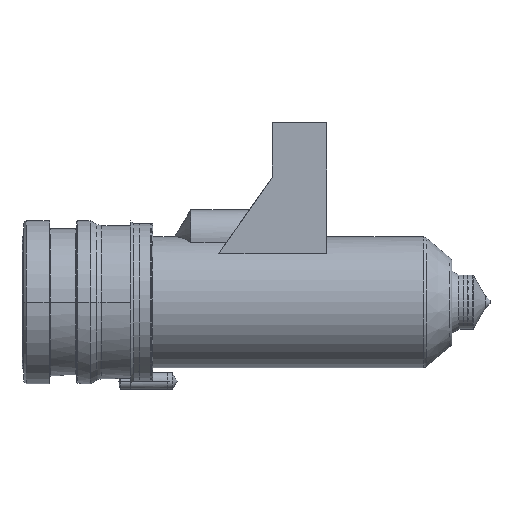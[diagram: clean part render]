
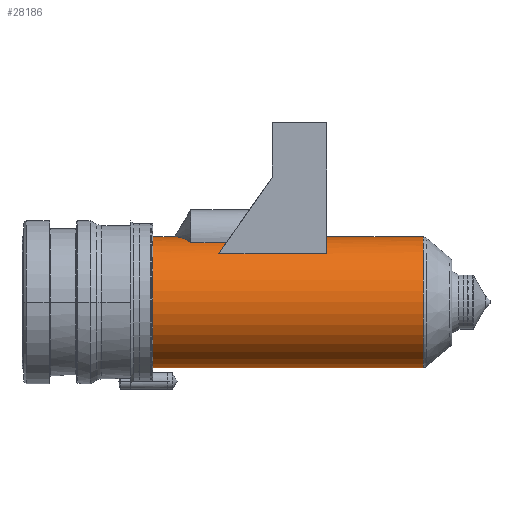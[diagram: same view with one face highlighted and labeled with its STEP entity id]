
A CAD part, left-side view. The second image highlights one B-rep face of the part: STEP entity #28186.
In plain terms, the highlighted cylindrical face has radius 12 mm (diameter 24 mm), a partial arc.
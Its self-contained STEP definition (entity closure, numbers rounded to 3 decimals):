
#27346=DIRECTION('',(0.,-1.,0.));
#27347=VECTOR('',#27346,19.842);
#27348=CARTESIAN_POINT('',(-8.,-36.158,8.944));
#27349=LINE('',#27348,#27347);
#27382=CARTESIAN_POINT('',(0.,-24.,0.));
#27383=DIRECTION('',(0.,1.,0.));
#27384=DIRECTION('',(0.,0.,-1.));
#27385=AXIS2_PLACEMENT_3D('',#27382,#27383,#27384);
#27390=CARTESIAN_POINT('',(0.,-56.,0.));
#27391=DIRECTION('',(0.,-1.,0.));
#27392=DIRECTION('',(0.,0.,1.));
#27393=AXIS2_PLACEMENT_3D('',#27390,#27391,#27392);
#27427=CARTESIAN_POINT('',(-4.89,-37.568,
10.958));
#27428=CARTESIAN_POINT('',(-5.478,-37.385,
10.696));
#27429=CARTESIAN_POINT('',(-6.58,-36.962,
10.092));
#27430=CARTESIAN_POINT('',(-7.548,-36.441,
9.349));
#27431=CARTESIAN_POINT('',(-8.,-36.158,8.944));
#27481=DIRECTION('',(0.,-1.,0.));
#27482=VECTOR('',#27481,6.564);
#27483=CARTESIAN_POINT('',(-4.89,-31.004,
10.958));
#27484=LINE('',#27483,#27482);
#27497=CARTESIAN_POINT('',(0.,-28.,12.));
#27510=CARTESIAN_POINT('',(0.,-28.,12.));
#27511=CARTESIAN_POINT('',(-0.24,-28.144,12.));
#27512=CARTESIAN_POINT('',(-0.72,-28.433,
11.986));
#27513=CARTESIAN_POINT('',(-1.438,-28.865,
11.921));
#27514=CARTESIAN_POINT('',(-2.151,-29.297,
11.813));
#27515=CARTESIAN_POINT('',(-2.855,-29.727,
11.663));
#27516=CARTESIAN_POINT('',(-3.549,-30.155,
11.471));
#27517=CARTESIAN_POINT('',(-4.229,-30.582,
11.238));
#27518=CARTESIAN_POINT('',(-4.672,-30.864,
11.056));
#27519=CARTESIAN_POINT('',(-4.89,-31.004,
10.958));
#27524=DIRECTION('',(0.,1.,0.));
#27525=VECTOR('',#27524,4.);
#27526=CARTESIAN_POINT('',(0.,-28.,12.));
#27527=LINE('',#27526,#27525);
#27539=DIRECTION('',(0.,1.,0.));
#27540=VECTOR('',#27539,49.736);
#27541=CARTESIAN_POINT('',(0.,-73.736,-12.));
#27542=LINE('',#27541,#27540);
#27546=DIRECTION('',(0.,1.,0.));
#27547=VECTOR('',#27546,17.736);
#27548=CARTESIAN_POINT('',(0.,-73.736,12.));
#27549=LINE('',#27548,#27547);
#27792=CARTESIAN_POINT('',(0.,-73.736,0.));
#27793=DIRECTION('',(0.,-1.,0.));
#27794=DIRECTION('',(0.,0.,1.));
#27795=AXIS2_PLACEMENT_3D('',#27792,#27793,#27794);
#28060=CARTESIAN_POINT('',(0.,-73.736,-12.));
#28061=CARTESIAN_POINT('',(0.,-24.,-12.));
#28062=VERTEX_POINT('',#28060);
#28063=VERTEX_POINT('',#28061);
#28064=CARTESIAN_POINT('',(0.,-24.,12.));
#28065=VERTEX_POINT('',#28064);
#28066=CARTESIAN_POINT('',(0.,-73.736,12.));
#28068=VERTEX_POINT('',#28066);
#28125=CARTESIAN_POINT('',(-8.,-36.158,8.944));
#28126=CARTESIAN_POINT('',(-8.,-56.,8.944));
#28127=VERTEX_POINT('',#28125);
#28128=VERTEX_POINT('',#28126);
#28133=VERTEX_POINT('',#27427);
#28135=CARTESIAN_POINT('',(0.,-56.,12.));
#28136=VERTEX_POINT('',#28135);
#28139=VERTEX_POINT('',#27497);
#28140=CARTESIAN_POINT('',(-4.89,-31.004,
10.958));
#28141=VERTEX_POINT('',#28140);
#28160=CARTESIAN_POINT('',(0.,-16.7,0.));
#28161=DIRECTION('',(0.,-1.,0.));
#28162=DIRECTION('',(0.,0.,1.));
#28163=AXIS2_PLACEMENT_3D('',#28160,#28161,#28162);
#28164=CYLINDRICAL_SURFACE('',#28163,12.);
#28165=ORIENTED_EDGE('',*,*,#28147,.T.);
#28167=ORIENTED_EDGE('',*,*,#28166,.F.);
#28169=ORIENTED_EDGE('',*,*,#28168,.F.);
#28171=ORIENTED_EDGE('',*,*,#28170,.T.);
#28173=ORIENTED_EDGE('',*,*,#28172,.T.);
#28175=ORIENTED_EDGE('',*,*,#28174,.T.);
#28177=ORIENTED_EDGE('',*,*,#28176,.F.);
#28179=ORIENTED_EDGE('',*,*,#28178,.T.);
#28181=ORIENTED_EDGE('',*,*,#28180,.T.);
#28183=ORIENTED_EDGE('',*,*,#28182,.T.);
#28184=EDGE_LOOP('',(#28165,#28167,#28169,#28171,#28173,#28175,#28177,#28179,
#28181,#28183));
#28185=FACE_OUTER_BOUND('',#28184,.F.);
#28186=ADVANCED_FACE('',(#28185),#28164,.T.);
#27386=CIRCLE('',#27385,12.);
#27394=CIRCLE('',#27393,12.);
#27432=B_SPLINE_CURVE_WITH_KNOTS('',3,(#27427,#27428,#27429,#27430,#27431),
.UNSPECIFIED.,.F.,.F.,(4,1,4),(0.,0.5,1.),.UNSPECIFIED.);
#27520=B_SPLINE_CURVE_WITH_KNOTS('',3,(#27510,#27511,#27512,#27513,#27514,
#27515,#27516,#27517,#27518,#27519),.UNSPECIFIED.,.F.,.F.,(4,1,1,1,1,1,1,4),(
0.,0.143,0.286,0.429,0.571,
0.714,0.857,1.),.UNSPECIFIED.);
#27796=CIRCLE('',#27795,12.);
#28147=EDGE_CURVE('',#28127,#28128,#27349,.T.);
#28166=EDGE_CURVE('',#28136,#28128,#27394,.T.);
#28168=EDGE_CURVE('',#28068,#28136,#27549,.T.);
#28170=EDGE_CURVE('',#28068,#28062,#27796,.T.);
#28172=EDGE_CURVE('',#28062,#28063,#27542,.T.);
#28174=EDGE_CURVE('',#28063,#28065,#27386,.T.);
#28176=EDGE_CURVE('',#28139,#28065,#27527,.T.);
#28178=EDGE_CURVE('',#28139,#28141,#27520,.T.);
#28180=EDGE_CURVE('',#28141,#28133,#27484,.T.);
#28182=EDGE_CURVE('',#28133,#28127,#27432,.T.);
